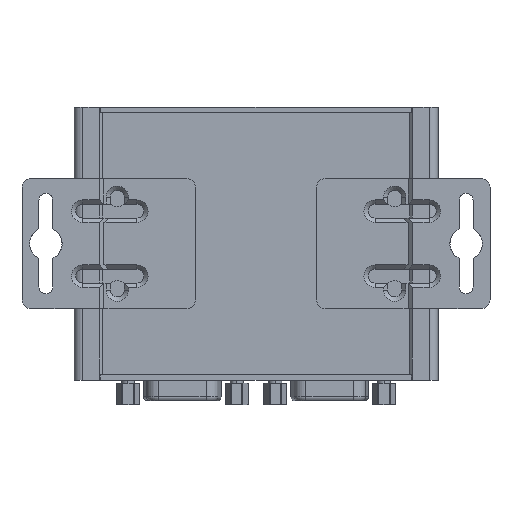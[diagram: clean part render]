
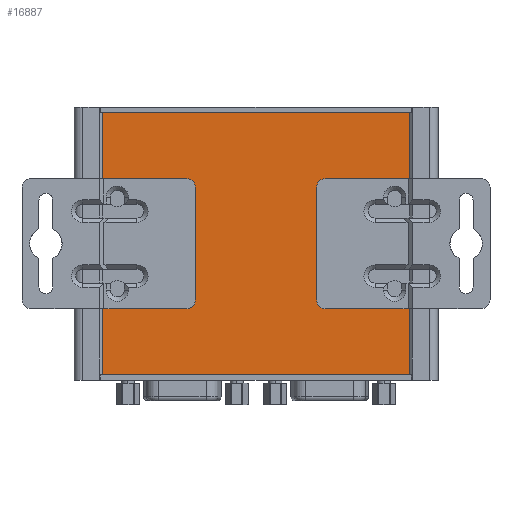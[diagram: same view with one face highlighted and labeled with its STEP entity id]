
A CAD part, front view. The second image highlights one B-rep face of the part: STEP entity #16887.
In plain terms, the highlighted planar face has unit normal (0, -1, 0).
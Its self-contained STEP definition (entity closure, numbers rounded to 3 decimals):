
#523=DIRECTION('',(0.,0.,1.));
#524=VECTOR('',#523,15.3);
#525=CARTESIAN_POINT('',(35.5,-14.399,15.));
#526=LINE('',#525,#524);
#839=CARTESIAN_POINT('',(-16.,-14.399,13.));
#840=DIRECTION('',(0.,-1.,0.));
#841=DIRECTION('',(1.,0.,0.));
#842=AXIS2_PLACEMENT_3D('',#839,#840,#841);
#844=DIRECTION('',(1.,0.,0.));
#845=VECTOR('',#844,19.5);
#846=CARTESIAN_POINT('',(-35.5,-14.399,15.));
#847=LINE('',#846,#845);
#848=DIRECTION('',(0.,0.,1.));
#849=VECTOR('',#848,15.3);
#850=CARTESIAN_POINT('',(-35.5,-14.399,15.));
#851=LINE('',#850,#849);
#852=DIRECTION('',(1.,0.,0.));
#853=VECTOR('',#852,71.);
#854=CARTESIAN_POINT('',(-35.5,-14.399,30.3));
#855=LINE('',#854,#853);
#856=DIRECTION('',(-1.,0.,0.));
#857=VECTOR('',#856,19.5);
#858=CARTESIAN_POINT('',(35.5,-14.399,15.));
#859=LINE('',#858,#857);
#860=CARTESIAN_POINT('',(16.,-14.399,13.));
#861=DIRECTION('',(0.,-1.,0.));
#862=DIRECTION('',(0.,0.,1.));
#863=AXIS2_PLACEMENT_3D('',#860,#861,#862);
#865=DIRECTION('',(0.,0.,-1.));
#866=VECTOR('',#865,26.);
#867=CARTESIAN_POINT('',(14.,-14.399,13.));
#868=LINE('',#867,#866);
#869=CARTESIAN_POINT('',(16.,-14.399,-13.));
#870=DIRECTION('',(0.,-1.,0.));
#871=DIRECTION('',(-1.,0.,0.));
#872=AXIS2_PLACEMENT_3D('',#869,#870,#871);
#874=DIRECTION('',(-1.,0.,0.));
#875=VECTOR('',#874,19.5);
#876=CARTESIAN_POINT('',(35.5,-14.399,-15.));
#877=LINE('',#876,#875);
#878=DIRECTION('',(1.,0.,0.));
#879=VECTOR('',#878,71.);
#880=CARTESIAN_POINT('',(-35.5,-14.399,-30.3));
#881=LINE('',#880,#879);
#882=DIRECTION('',(0.,0.,1.));
#883=VECTOR('',#882,15.3);
#884=CARTESIAN_POINT('',(-35.5,-14.399,-30.3));
#885=LINE('',#884,#883);
#886=DIRECTION('',(1.,0.,0.));
#887=VECTOR('',#886,19.5);
#888=CARTESIAN_POINT('',(-35.5,-14.399,-15.));
#889=LINE('',#888,#887);
#890=CARTESIAN_POINT('',(-16.,-14.399,-13.));
#891=DIRECTION('',(0.,-1.,0.));
#892=DIRECTION('',(0.,0.,-1.));
#893=AXIS2_PLACEMENT_3D('',#890,#891,#892);
#895=DIRECTION('',(0.,0.,1.));
#896=VECTOR('',#895,26.);
#897=CARTESIAN_POINT('',(-14.,-14.399,-13.));
#898=LINE('',#897,#896);
#10589=DIRECTION('',(0.,0.,1.));
#10590=VECTOR('',#10589,15.3);
#10591=CARTESIAN_POINT('',(35.5,-14.399,-30.3));
#10592=LINE('',#10591,#10590);
#13094=CARTESIAN_POINT('',(-35.5,-14.399,30.3));
#13096=VERTEX_POINT('',#13094);
#13141=CARTESIAN_POINT('',(35.5,-14.399,30.3));
#13142=VERTEX_POINT('',#13141);
#14158=CARTESIAN_POINT('',(-35.5,-14.399,-30.3));
#14160=VERTEX_POINT('',#14158);
#14205=CARTESIAN_POINT('',(35.5,-14.399,-30.3));
#14206=VERTEX_POINT('',#14205);
#14481=CARTESIAN_POINT('',(14.,-14.399,-13.));
#14482=CARTESIAN_POINT('',(16.,-14.399,-15.));
#14483=VERTEX_POINT('',#14481);
#14484=VERTEX_POINT('',#14482);
#14485=CARTESIAN_POINT('',(14.,-14.399,13.));
#14486=VERTEX_POINT('',#14485);
#14487=CARTESIAN_POINT('',(16.,-14.399,15.));
#14488=VERTEX_POINT('',#14487);
#14505=CARTESIAN_POINT('',(35.5,-14.399,15.));
#14506=VERTEX_POINT('',#14505);
#14507=CARTESIAN_POINT('',(35.5,-14.399,-15.));
#14508=VERTEX_POINT('',#14507);
#14693=CARTESIAN_POINT('',(-35.5,-14.399,-15.));
#14694=VERTEX_POINT('',#14693);
#14695=CARTESIAN_POINT('',(-35.5,-14.399,15.));
#14696=VERTEX_POINT('',#14695);
#14697=CARTESIAN_POINT('',(-14.,-14.399,13.));
#14698=CARTESIAN_POINT('',(-16.,-14.399,15.));
#14699=VERTEX_POINT('',#14697);
#14700=VERTEX_POINT('',#14698);
#14701=CARTESIAN_POINT('',(-14.,-14.399,-13.));
#14702=VERTEX_POINT('',#14701);
#14703=CARTESIAN_POINT('',(-16.,-14.399,-15.));
#14704=VERTEX_POINT('',#14703);
#16853=CARTESIAN_POINT('',(-35.5,-14.399,-30.3));
#16854=DIRECTION('',(0.,-1.,0.));
#16855=DIRECTION('',(1.,0.,0.));
#16856=AXIS2_PLACEMENT_3D('',#16853,#16854,#16855);
#16857=PLANE('',#16856);
#16859=ORIENTED_EDGE('',*,*,#16858,.T.);
#16861=ORIENTED_EDGE('',*,*,#16860,.F.);
#16862=ORIENTED_EDGE('',*,*,#16483,.T.);
#16863=ORIENTED_EDGE('',*,*,#16511,.T.);
#16864=ORIENTED_EDGE('',*,*,#16523,.F.);
#16866=ORIENTED_EDGE('',*,*,#16865,.T.);
#16868=ORIENTED_EDGE('',*,*,#16867,.T.);
#16870=ORIENTED_EDGE('',*,*,#16869,.T.);
#16872=ORIENTED_EDGE('',*,*,#16871,.T.);
#16874=ORIENTED_EDGE('',*,*,#16873,.F.);
#16876=ORIENTED_EDGE('',*,*,#16875,.F.);
#16877=ORIENTED_EDGE('',*,*,#16845,.F.);
#16878=ORIENTED_EDGE('',*,*,#16283,.T.);
#16880=ORIENTED_EDGE('',*,*,#16879,.T.);
#16882=ORIENTED_EDGE('',*,*,#16881,.T.);
#16884=ORIENTED_EDGE('',*,*,#16883,.T.);
#16885=EDGE_LOOP('',(#16859,#16861,#16862,#16863,#16864,#16866,#16868,#16870,
#16872,#16874,#16876,#16877,#16878,#16880,#16882,#16884));
#16886=FACE_OUTER_BOUND('',#16885,.F.);
#16887=ADVANCED_FACE('',(#16886),#16857,.T.);
#843=CIRCLE('',#842,2.);
#864=CIRCLE('',#863,2.);
#873=CIRCLE('',#872,2.);
#894=CIRCLE('',#893,2.);
#16283=EDGE_CURVE('',#14160,#14694,#885,.T.);
#16483=EDGE_CURVE('',#14696,#13096,#851,.T.);
#16511=EDGE_CURVE('',#13096,#13142,#855,.T.);
#16523=EDGE_CURVE('',#14506,#13142,#526,.T.);
#16845=EDGE_CURVE('',#14160,#14206,#881,.T.);
#16858=EDGE_CURVE('',#14699,#14700,#843,.T.);
#16860=EDGE_CURVE('',#14696,#14700,#847,.T.);
#16865=EDGE_CURVE('',#14506,#14488,#859,.T.);
#16867=EDGE_CURVE('',#14488,#14486,#864,.T.);
#16869=EDGE_CURVE('',#14486,#14483,#868,.T.);
#16871=EDGE_CURVE('',#14483,#14484,#873,.T.);
#16873=EDGE_CURVE('',#14508,#14484,#877,.T.);
#16875=EDGE_CURVE('',#14206,#14508,#10592,.T.);
#16879=EDGE_CURVE('',#14694,#14704,#889,.T.);
#16881=EDGE_CURVE('',#14704,#14702,#894,.T.);
#16883=EDGE_CURVE('',#14702,#14699,#898,.T.);
